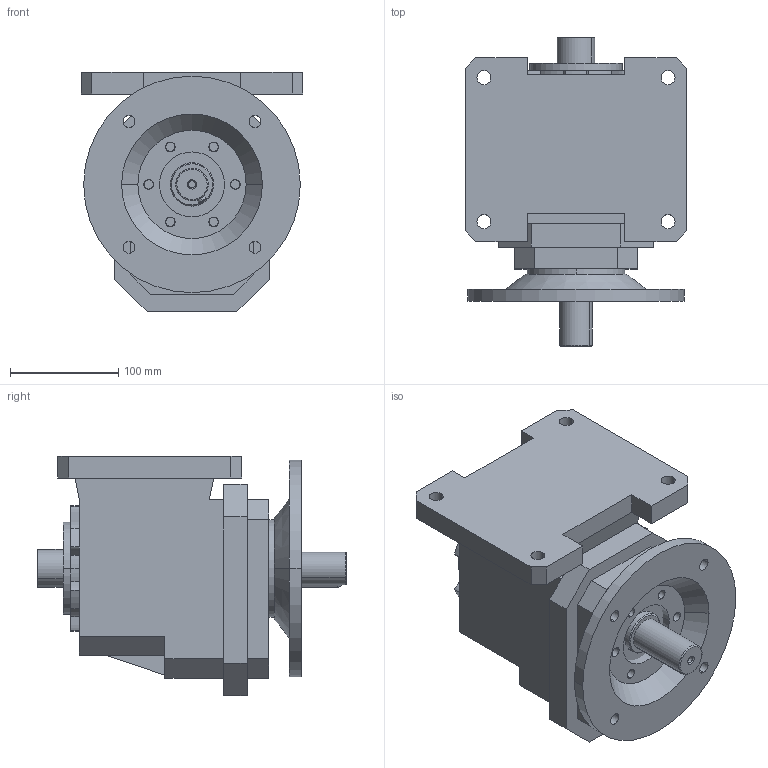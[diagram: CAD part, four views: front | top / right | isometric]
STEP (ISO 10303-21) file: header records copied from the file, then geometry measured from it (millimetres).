
FILE_DESCRIPTION (( 'STEP AP203' ), '1' );
FILE_NAME ('Red HG30 B5 19.STEP', '2019-07-16T07:08:00', ( '' ), ( '' ), 'SwSTEP 2.0', 'SolidWorks 2018', '' );
FILE_SCHEMA (( 'CONFIG_CONTROL_DESIGN' ));
Length unit declared in the file: millimetre
Products named in the file (4): Red HG30 B5 19; Bride HG30 B5; HG30; Arbre 30 19
Assembly tree (3 placements, depth 2):
  Red HG30 B5 19
    Bride HG30 B5
    HG30
    Arbre 30 19
Bounding box: 205 x 285 x 221 mm (x, y, z)
Volume: 4545705.2 mm3; surface area: 393146.8 mm2
Topology: 3 solids, 3 shells, 230 faces, 577 edges, 366 vertices
Faces by surface type: cylinder 98, plane 91, cone 20, bspline 12, torus 9
Entity records: 7392 total; most frequent: CARTESIAN_POINT 1411, DIRECTION 1196, ORIENTED_EDGE 1130, EDGE_CURVE 565, AXIS2_PLACEMENT_3D 439, VERTEX_POINT 366, LINE 318, VECTOR 318
